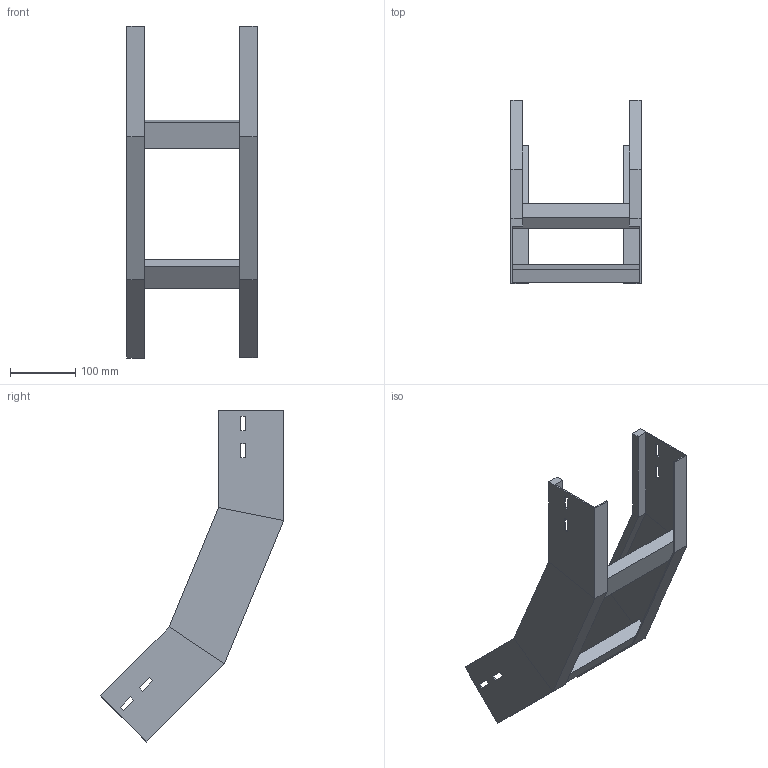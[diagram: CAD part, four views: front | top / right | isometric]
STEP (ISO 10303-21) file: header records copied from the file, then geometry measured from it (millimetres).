
FILE_DESCRIPTION (( 'STEP AP214' ), '1' );
FILE_NAME ('A2X31B5D200XX.step', '2025-03-20T10:04:24', ( '' ), ( '' ), 'SwSTEP 2.0', 'SolidWorks 2023', '' );
FILE_SCHEMA (( 'AUTOMOTIVE_DESIGN' ));
Length unit declared in the file: millimetre
Products named in the file (3): A2X31B5D200XX; TRAVERSINO_200; LONGH.SALITA_45°_H100_R500
Assembly tree (4 placements, depth 2):
  A2X31B5D200XX
    LONGH.SALITA_45°_H100_R500  x2
    TRAVERSINO_200  x2
Bounding box: 200 x 281.75 x 509.5 mm (x, y, z)
Volume: 780676.9 mm3; surface area: 360022.2 mm2
Topology: 4 solids, 4 shells, 96 faces, 232 edges, 144 vertices
Faces by surface type: plane 96
Entity records: 1472 total; most frequent: CARTESIAN_POINT 243, ORIENTED_EDGE 232, DIRECTION 226, VECTOR 116, LINE 116, EDGE_CURVE 116, VERTEX_POINT 72, EDGE_LOOP 56
